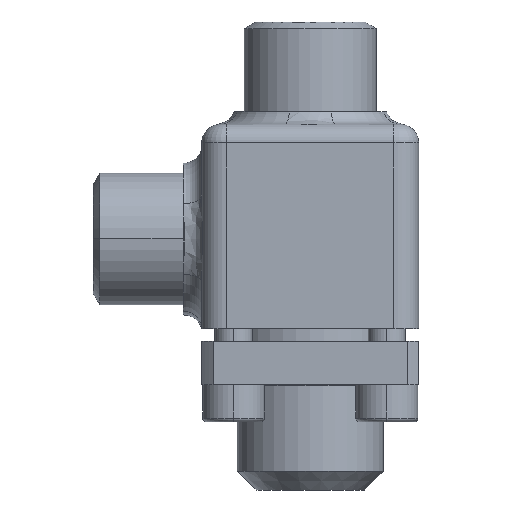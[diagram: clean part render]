
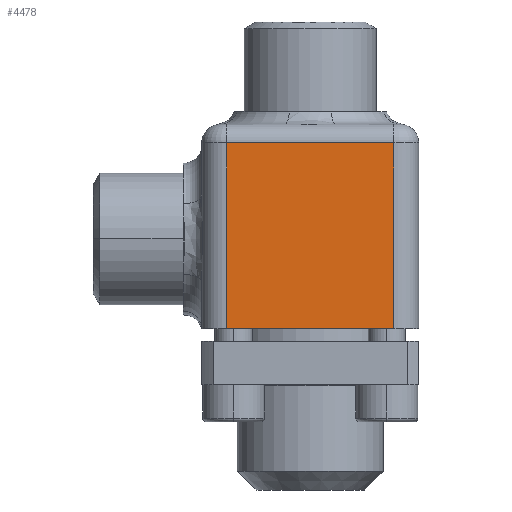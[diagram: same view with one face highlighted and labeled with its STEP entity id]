
A CAD part, front view. The second image highlights one B-rep face of the part: STEP entity #4478.
In plain terms, the highlighted planar face has unit normal (0, -1, 0).
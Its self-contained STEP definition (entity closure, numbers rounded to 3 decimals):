
#125 = LINE ( 'NONE', #126, #127 ) ;
#126 = CARTESIAN_POINT ( 'NONE',  ( -17.5, -17.5, 0. ) ) ;
#127 = VECTOR ( 'NONE', #128, 1000. ) ;
#128 = DIRECTION ( 'NONE',  ( 1., 0., 0. ) ) ;
#475 = LINE ( 'NONE', #476, #477 ) ;
#476 = CARTESIAN_POINT ( 'NONE',  ( -17.5, -17.5, 30. ) ) ;
#477 = VECTOR ( 'NONE', #478, 1000. ) ;
#478 = DIRECTION ( 'NONE',  ( -1., 0., 0. ) ) ;
#1731 = CARTESIAN_POINT ( 'NONE',  ( -13.5, -17.5, 0. ) ) ;
#2476 = ORIENTED_EDGE ( 'NONE', *, *, #4574, .T. ) ;
#2674 = LINE ( 'NONE', #2675, #2676 ) ;
#2675 = CARTESIAN_POINT ( 'NONE',  ( -13.5, -17.5, 33. ) ) ;
#2676 = VECTOR ( 'NONE', #2677, 1000. ) ;
#2677 = DIRECTION ( 'NONE',  ( 0., 0., -1. ) ) ;
#2967 = VERTEX_POINT ( 'NONE', #1731 ) ;
#3175 = EDGE_CURVE ( 'NONE', #3995, #2967, #2674, .T. ) ;
#3351 = CARTESIAN_POINT ( 'NONE',  ( 13.5, -17.5, 30. ) ) ;
#3518 = ORIENTED_EDGE ( 'NONE', *, *, #3175, .T. ) ;
#3565 = CARTESIAN_POINT ( 'NONE',  ( 13.5, -17.5, 0. ) ) ;
#3688 = LINE ( 'NONE', #3689, #3690 ) ;
#3689 = CARTESIAN_POINT ( 'NONE',  ( 13.5, -17.5, 33. ) ) ;
#3690 = VECTOR ( 'NONE', #3691, 1000. ) ;
#3691 = DIRECTION ( 'NONE',  ( 0., 0., 1. ) ) ;
#3703 = CARTESIAN_POINT ( 'NONE',  ( -13.5, -17.5, 30. ) ) ;
#3995 = VERTEX_POINT ( 'NONE', #3703 ) ;
#4311 = EDGE_CURVE ( 'NONE', #4377, #3995, #475, .T. ) ;
#4336 = ORIENTED_EDGE ( 'NONE', *, *, #4311, .T. ) ;
#4377 = VERTEX_POINT ( 'NONE', #3351 ) ;
#4391 = VERTEX_POINT ( 'NONE', #3565 ) ;
#4406 = EDGE_CURVE ( 'NONE', #4391, #4377, #3688, .T. ) ;
#4431 = ORIENTED_EDGE ( 'NONE', *, *, #4406, .T. ) ;
#4459 = EDGE_LOOP ( 'NONE', ( #4431, #4336, #3518, #2476 ) ) ;
#4478 = ADVANCED_FACE ( 'NONE', ( #6205 ), #6206, .F. ) ;
#4574 = EDGE_CURVE ( 'NONE', #2967, #4391, #125, .T. ) ;
#6205 = FACE_OUTER_BOUND ( 'NONE', #4459, .T. ) ;
#6206 = PLANE ( 'NONE',  #6207 ) ;
#6207 = AXIS2_PLACEMENT_3D ( 'NONE', #6208, #6209, #6210 ) ;
#6208 = CARTESIAN_POINT ( 'NONE',  ( -17.5, -17.5, 33. ) ) ;
#6209 = DIRECTION ( 'NONE',  ( 0., 1., 0. ) ) ;
#6210 = DIRECTION ( 'NONE',  ( -1., 0., 0. ) ) ;
